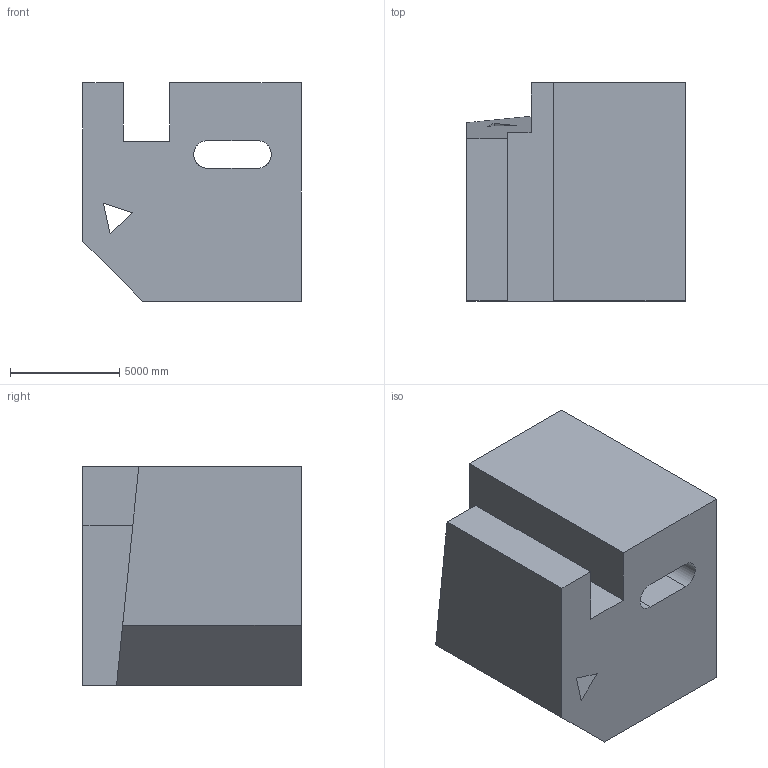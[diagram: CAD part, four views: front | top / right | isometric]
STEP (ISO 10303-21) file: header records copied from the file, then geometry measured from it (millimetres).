
FILE_DESCRIPTION (( 'STEP AP203' ), '1' );
FILE_NAME ('584.STEP', '2022-08-04T14:31:51', ( 'user' ), ( '' ), 'SwSTEP 2.0', 'SolidWorks 2021', '' );
FILE_SCHEMA (( 'CONFIG_CONTROL_DESIGN' ));
Length unit declared in the file: centimetre
Products named in the file (1): 584
Bounding box: 10000 x 10000 x 10000 mm (x, y, z)
Volume: 792976451683.1 mm3; surface area: 717197239.4 mm2
Topology: 1 solids, 1 shells, 25 faces, 72 edges, 48 vertices
Faces by surface type: plane 22, cylinder 3
Entity records: 1025 total; most frequent: CARTESIAN_POINT 278, ORIENTED_EDGE 144, DIRECTION 128, EDGE_CURVE 72, LINE 64, VECTOR 64, VERTEX_POINT 48, AXIS2_PLACEMENT_3D 32
